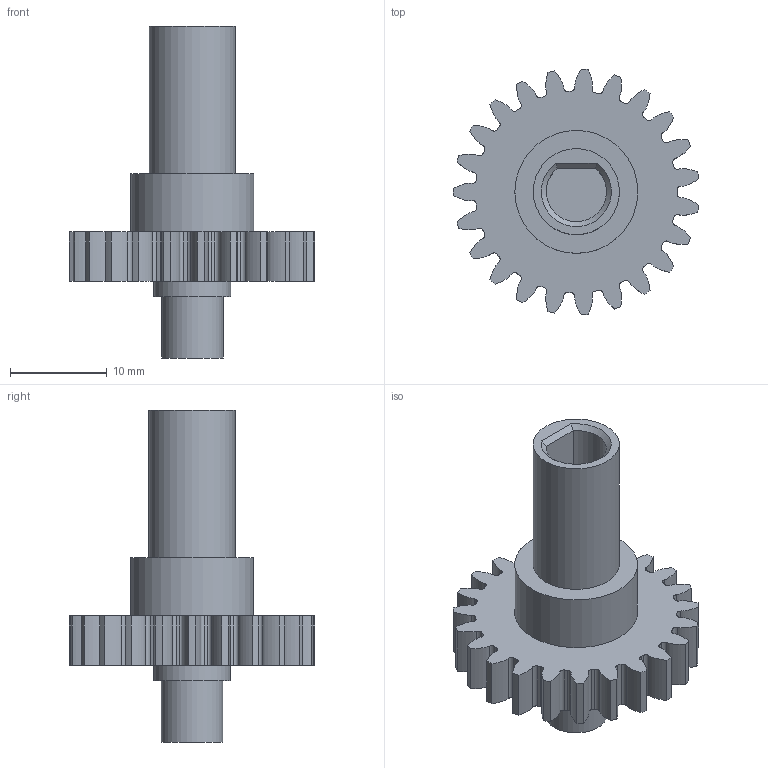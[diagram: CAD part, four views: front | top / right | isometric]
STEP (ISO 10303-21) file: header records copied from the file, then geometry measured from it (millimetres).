
FILE_DESCRIPTION(/* description */ ('STEP AP242 Edition 2','CAx-IF Rec.Pracs.---Representation and Presentation of Product Manufacturing Information (PMI)---4.0---2014-10-13','CAx-IF Rec.Pracs.---3D Tessellated Geometry---0.4---2014-09-14','2;1','CAx-IF Rec.Pracs.---User Defined Attributes---1.5---2016-08-15'),/* implementation_level */ '2;1');
FILE_NAME(/* name */ 'Main - 23t mid drive spur gear',/* time_stamp */ '2026-09-13T15:49:56Z',/* author */ (''),/* organization */ (''),/* preprocessor_version */ 'ST-DEVELOPER v20',/* originating_system */ 'ONSHAPE BY PTC INC, 1.220',/* authorisation */ ' ');
FILE_SCHEMA (('AP242_MANAGED_MODEL_BASED_3D_ENGINEERING_MIM_LF { 1 0 10303 442 3 1 4 }'));
Length unit declared in the file: metre
Products named in the file (1): 23t mid drive spur gear
Bounding box: 25.33 x 25.38 x 34.29 mm (x, y, z)
Volume: 3839.9 mm3; surface area: 2608.3 mm2
Topology: 1 solids, 1 shells, 153 faces, 436 edges, 290 vertices
Faces by surface type: cylinder 97, bspline 46, plane 9, cone 1
Full cylindrical faces by diameter (mm): 6.35 x1, 7.938 x1, 8.89 x1, 12.7 x1
Entity records: 8845 total; most frequent: CARTESIAN_POINT 4976, ORIENTED_EDGE 864, DIRECTION 749, EDGE_CURVE 432, AXIS2_PLACEMENT_3D 303, VERTEX_POINT 290, CIRCLE 195, EDGE_LOOP 162
